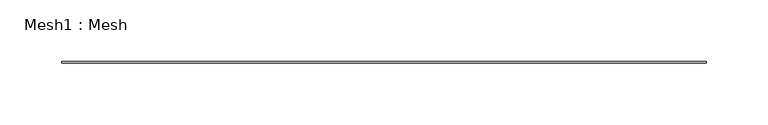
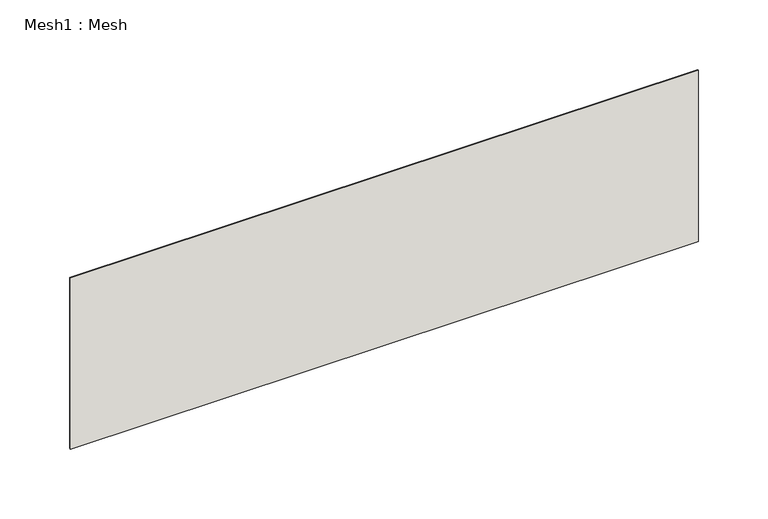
"""IFC4 building model written with IfcOpenShell, lengths in millimetres: wall geometry, Mesh1 : Mesh."""

import ifcopenshell
import ifcopenshell.guid

model = None  # the IFC model being written
_history = None  # IfcOwnerHistory: only IFC2X3 demands one
_inside = {}  # id of a spatial element -> (the spatial element, [elements in it])
_under = {}  # id of a project, library or spatial element -> (it, [spatial elements below it])
_declared = {}  # id of a project -> (the project, [libraries it declares])
_typed = {}  # id of a type object -> (the type object, [elements of that type])
_made_of = {}  # id of a material, layer set ... -> (it, [elements and type objects made of it])


def new_model(schema):
    """Start an empty IFC model of exactly this schema.

    Asked for "IFC4X3", IfcOpenShell would pick the latest addendum, in which some entities
    have other attributes; the version numbers below select the first issue.
    IFC2X3 requires an IfcOwnerHistory on every rooted entity: one is made here for all.
    """
    global model, _history
    if schema == "IFC4X3":
        model = ifcopenshell.file(schema_version=(4, 3, 0, 0))
    else:
        model = ifcopenshell.file(schema=schema)
    _inside.clear()
    _under.clear()
    _declared.clear()
    _typed.clear()
    _made_of.clear()
    _history = None
    if model.schema == "IFC2X3":
        org = make("IfcOrganization", Name="unknown")
        user = make(
            "IfcPersonAndOrganization",
            ThePerson=make("IfcPerson", FamilyName="unknown"),
            TheOrganization=org,
        )
        app = make(
            "IfcApplication",
            ApplicationDeveloper=org,
            Version="unknown",
            ApplicationFullName="unknown",
            ApplicationIdentifier="unknown",
        )
        _history = make(
            "IfcOwnerHistory",
            OwningUser=user,
            OwningApplication=app,
            ChangeAction="ADDED",
            CreationDate=0,
        )
    return model


def make(cls, **values):
    """One entity of the class cls with the attributes given. An attribute that is None is left unset."""
    return model.create_entity(
        cls, **{name: value for name, value in values.items() if value is not None}
    )


def rooted(cls, **values):
    """An entity with a GlobalId (a new one), such as an element, a storey or a relation."""
    return make(cls, GlobalId=ifcopenshell.guid.new(), OwnerHistory=_history, **values)


def si_unit(unit_type, name, prefix=None):
    """IfcSIUnit, for example si_unit("LENGTHUNIT", "METRE", prefix="MILLI")."""
    return make("IfcSIUnit", UnitType=unit_type, Prefix=prefix, Name=name)


def assignment(units):
    """IfcUnitAssignment: the units of a project."""
    return None if units is None else make("IfcUnitAssignment", Units=units)


def point(xyz):
    """IfcCartesianPoint."""
    return None if xyz is None else make("IfcCartesianPoint", Coordinates=xyz)


def direction(xyz):
    """IfcDirection."""
    return None if xyz is None else make("IfcDirection", DirectionRatios=xyz)


def frame(location, z_axis=None, x_axis=None):
    """IfcAxis2Placement3D, a coordinate frame: its origin and axes. An axis left out is left unset."""
    return make(
        "IfcAxis2Placement3D",
        Location=point(location),
        Axis=direction(z_axis),
        RefDirection=direction(x_axis),
    )


def origin():
    """The frame at (0, 0, 0) with its axes left unset."""
    return frame((0.0, 0.0, 0.0))


def place(relative_to, where):
    """IfcLocalPlacement: puts the frame where relative to a parent placement (None: the world)."""
    return make(
        "IfcLocalPlacement", PlacementRelTo=relative_to, RelativePlacement=where
    )


def context(
    kind, dimensions, precision=None, world=None, true_north=None, identifier=None
):
    """IfcGeometricRepresentationContext, for example the 3D "Model" context."""
    return make(
        "IfcGeometricRepresentationContext",
        ContextIdentifier=identifier,
        ContextType=kind,
        CoordinateSpaceDimension=dimensions,
        Precision=precision,
        WorldCoordinateSystem=world,
        TrueNorth=true_north,
    )


def project(units=None, contexts=None):
    """IfcProject with its units and contexts."""
    return rooted(
        "IfcProject",
        Name="project",
        RepresentationContexts=contexts,
        UnitsInContext=assignment(units),
    )


def spatial(cls, under=None, at=None, **own):
    """A site, building, storey or space (cls), placed at a placement, below another one or the project."""
    s = rooted(cls, ObjectPlacement=at, **own)
    if under is not None:
        _under.setdefault(under.id(), (under, []))[1].append(s)
    return s


def polyline(points):
    """IfcPolyline through the points."""
    return make("IfcPolyline", Points=[point(p) for p in points])


def outline(outer, holes=None, kind="AREA"):
    """IfcArbitraryClosedProfileDef: a profile drawn as a closed curve; with holes, ...WithVoids."""
    if holes is None:
        return make("IfcArbitraryClosedProfileDef", ProfileType=kind, OuterCurve=outer)
    return make(
        "IfcArbitraryProfileDefWithVoids",
        ProfileType=kind,
        OuterCurve=outer,
        InnerCurves=holes,
    )


def extrude(swept, where, along, depth):
    """IfcExtrudedAreaSolid: the profile swept, set in the frame where, extruded along a direction by depth."""
    return make(
        "IfcExtrudedAreaSolid",
        SweptArea=swept,
        Position=where,
        ExtrudedDirection=direction(along),
        Depth=depth,
    )


def shape(context_of_items, identifier, shape_type, items):
    """IfcShapeRepresentation: the items that make up one representation, for example the "Body"."""
    return make(
        "IfcShapeRepresentation",
        ContextOfItems=context_of_items,
        RepresentationIdentifier=identifier,
        RepresentationType=shape_type,
        Items=items,
    )


def source(mapping_origin, context_of_items, identifier, shape_type, items):
    """IfcRepresentationMap: a shape defined once, which mapped items show again and again."""
    return make(
        "IfcRepresentationMap",
        MappingOrigin=mapping_origin,
        MappedRepresentation=shape(context_of_items, identifier, shape_type, items),
    )


def transform(
    local_origin,
    x_axis=None,
    y_axis=None,
    z_axis=None,
    scale=None,
    scale2=None,
    scale3=None,
    uniform=True,
):
    """IfcCartesianTransformationOperator3D, or its non-uniform kind. x_axis, y_axis, z_axis: its Axis1, 2, 3."""
    if uniform:
        return make(
            "IfcCartesianTransformationOperator3D",
            Axis1=direction(x_axis),
            Axis2=direction(y_axis),
            LocalOrigin=point(local_origin),
            Scale=scale,
            Axis3=direction(z_axis),
        )
    return make(
        "IfcCartesianTransformationOperator3DnonUniform",
        Axis1=direction(x_axis),
        Axis2=direction(y_axis),
        LocalOrigin=point(local_origin),
        Scale=scale,
        Axis3=direction(z_axis),
        Scale2=scale2,
        Scale3=scale3,
    )


def mapped(mapping_source, mapping_target):
    """IfcMappedItem: shows the shape of a source again, moved by a transform."""
    return make(
        "IfcMappedItem", MappingSource=mapping_source, MappingTarget=mapping_target
    )


def made_of(thing, what):
    """Note that an element or type object is made of a material, layer set ...; save() writes the relation."""
    if what is not None:
        _made_of.setdefault(what.id(), (what, []))[1].append(thing)
    return thing


def element(
    cls,
    number,
    at=None,
    inside=None,
    cuts=None,
    type_object=None,
    material=None,
    context=None,
    identifier="Body",
    shape_type=None,
    held_by="IfcProductDefinitionShape",
    body=None,
    shapes=None,
    **own,
):
    """One element of the class cls, such as IfcWall. Its Tag is "e" and its number.

    at: its placement. inside: the storey or other place that contains it. cuts: it is an
    opening in that element (IfcRelVoidsElement). A single representation is given by context,
    identifier, shape_type and body (its items); several are given by shapes. held_by: the class
    of the entity that holds the representations. save() writes the other relations.
    """
    e = rooted(cls, Tag="e%d" % number, ObjectPlacement=at, **own)
    if body is not None:
        shapes = [shape(context, identifier, shape_type, body)]
    if shapes is not None:
        e.Representation = make(held_by, Representations=shapes)
    if inside is not None:
        _inside.setdefault(inside.id(), (inside, []))[1].append(e)
    if cuts is not None:
        rooted(
            "IfcRelVoidsElement", RelatingBuildingElement=cuts, RelatedOpeningElement=e
        )
    if type_object is not None:
        _typed.setdefault(type_object.id(), (type_object, []))[1].append(e)
    return made_of(e, material)


def aggregate(whole, parts):
    """IfcRelAggregates: a whole, such as a stair, and the parts it consists of."""
    return rooted("IfcRelAggregates", RelatingObject=whole, RelatedObjects=parts)


def save(model, path):
    """Write the relations noted so far, then the file.

    IfcRelAggregates (storeys below a building ...), IfcRelContainedInSpatialStructure (elements
    in a storey), IfcRelDefinesByType, IfcRelAssociatesMaterial and IfcRelDeclares: one each for
    every whole, place, type object, material and project.
    """
    for whole, parts in _under.values():
        aggregate(whole, parts)
    for where, things in _inside.values():
        rooted(
            "IfcRelContainedInSpatialStructure",
            RelatedElements=things,
            RelatingStructure=where,
        )
    for kind, things in _typed.values():
        rooted("IfcRelDefinesByType", RelatedObjects=things, RelatingType=kind)
    for what, things in _made_of.values():
        rooted("IfcRelAssociatesMaterial", RelatedObjects=things, RelatingMaterial=what)
    for by, libraries in _declared.values():
        rooted("IfcRelDeclares", RelatingContext=by, RelatedDefinitions=libraries)
    model.write(path)


def mesh1_mesh_980437a5(model_context):
    return source(origin(), model_context, "Body", "SweptSolid", [
        extrude(outline(polyline([(20884.2622931, 14945.3863455), (20364.2622931, 14945.3863455), (20364.2622931, 14946.3863455), (20884.2622931, 14946.3863455), (20884.2622931, 14945.3863455)])), frame((0.0, 0.0, 1420.0), z_axis=(0.0, 0.0, 1.0), x_axis=(1.0, 0.0, 0.0)), (0.0, 0.0, 1.0), 150.0),
    ])


if __name__ == "__main__":
    model = new_model("IFC4")
    model_context = context("Model", 3, world=origin())
    ifc_project = project(units=[si_unit("LENGTHUNIT", "METRE", prefix="MILLI")], contexts=[model_context])
    site = spatial("IfcSite", under=ifc_project)
    building = spatial("IfcBuilding", under=site)
    placement = place(None, origin())
    mesh1_mesh_shape = mesh1_mesh_980437a5(model_context)
    element("IfcWall", 1, ObjectType="Mesh1 : Mesh", at=placement, inside=building, context=model_context, shape_type="MappedRepresentation", body=[
        mapped(mesh1_mesh_shape, transform((0.0, 0.0, 0.0), x_axis=(1.0, 0.0, 0.0), y_axis=(0.0, 1.0, 0.0), z_axis=(0.0, 0.0, 1.0))),
    ])
    save(model, "model.ifc")
